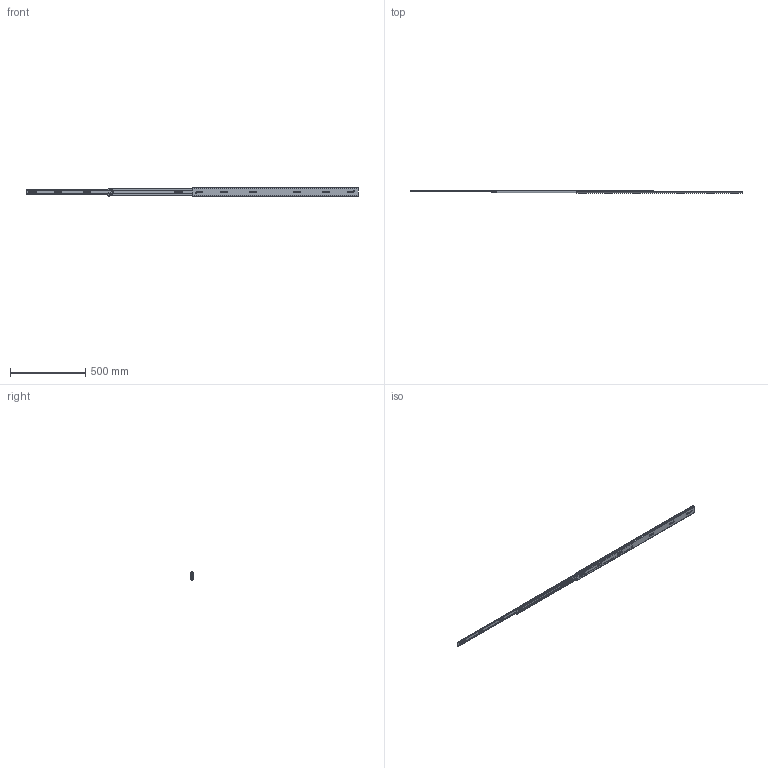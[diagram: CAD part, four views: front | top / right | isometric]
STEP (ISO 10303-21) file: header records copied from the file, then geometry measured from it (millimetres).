
FILE_DESCRIPTION((''),'2;1');
FILE_NAME('1057-C-44_ASM','2023-11-23T',('jishu015'),(''),'PRO/ENGINEER BY PARAMETRIC TECHNOLOGY CORPORATION, 2010280','PRO/ENGINEER BY PARAMETRIC TECHNOLOGY CORPORATION, 2010280','');
FILE_SCHEMA(('CONFIG_CONTROL_DESIGN'));
Products named in the file (19): KP-57-01WEIKE-31___________; MAODING-WAI___________; 1057DAZHUJIA-20GE1___________; 1057ZHUJIADANWEIJIAO123_______; 1057-5-6GANZHU1___________; 1057DAZHUJIA-20GE_12___ASM; 1057-C-20-KE____________ASM; KP-57-01ZHONGGUI-36___; PEIJIAN-22___________; ZHUANJIAO112___________; LIUJIAO-DING11___________; MAODING-P___________; PEIJIAN-ZHONG____________ASM; 1057XIAOZHUJIA___20____________; 1057XIAOZHUJIA-20GE_____________ASM; KP-57-01ZHONGGUI-36____ASM; KP-57-01NEIGUI-241___________; KP-57-01NEIGUI-241____________ASM; 1057-C-44_ASM
Assembly tree (176 placements, depth 4):
  1057-C-44_ASM
    1057-C-20-KE____________ASM
      KP-57-01WEIKE-31___________
      MAODING-WAI___________  x2
      1057DAZHUJIA-20GE_12___ASM
        1057DAZHUJIA-20GE1___________
        1057ZHUJIADANWEIJIAO123_______  x2
        1057-5-6GANZHU1___________  x76
    KP-57-01ZHONGGUI-36____ASM
      KP-57-01ZHONGGUI-36___
      PEIJIAN-ZHONG____________ASM  x2
        PEIJIAN-22___________
        ZHUANJIAO112___________
        LIUJIAO-DING11___________
        MAODING-P___________
      MAODING-WAI___________  x2
      1057XIAOZHUJIA-20GE_____________ASM
        1057XIAOZHUJIA___20____________
        1057-5-6GANZHU1___________  x76
        1057ZHUJIADANWEIJIAO123_______  x2
    KP-57-01NEIGUI-241____________ASM
      KP-57-01NEIGUI-241___________
Bounding box: 2200 x 19.8 x 57.67 mm (x, y, z)
Volume: 477484.8 mm3; surface area: 558498.5 mm2
Topology: 173 solids, 173 shells, 4434 faces, 12334 edges, 7632 vertices
Faces by surface type: plane 1978, cylinder 1814, sphere 310, bspline 130, cone 114, torus 88
Entity records: 127270 total; most frequent: CARTESIAN_POINT 26667, DIRECTION 21400, ORIENTED_EDGE 20866, EDGE_CURVE 10433, AXIS2_PLACEMENT_3D 7392, VERTEX_POINT 6712, VECTOR 6616, LINE 6616
